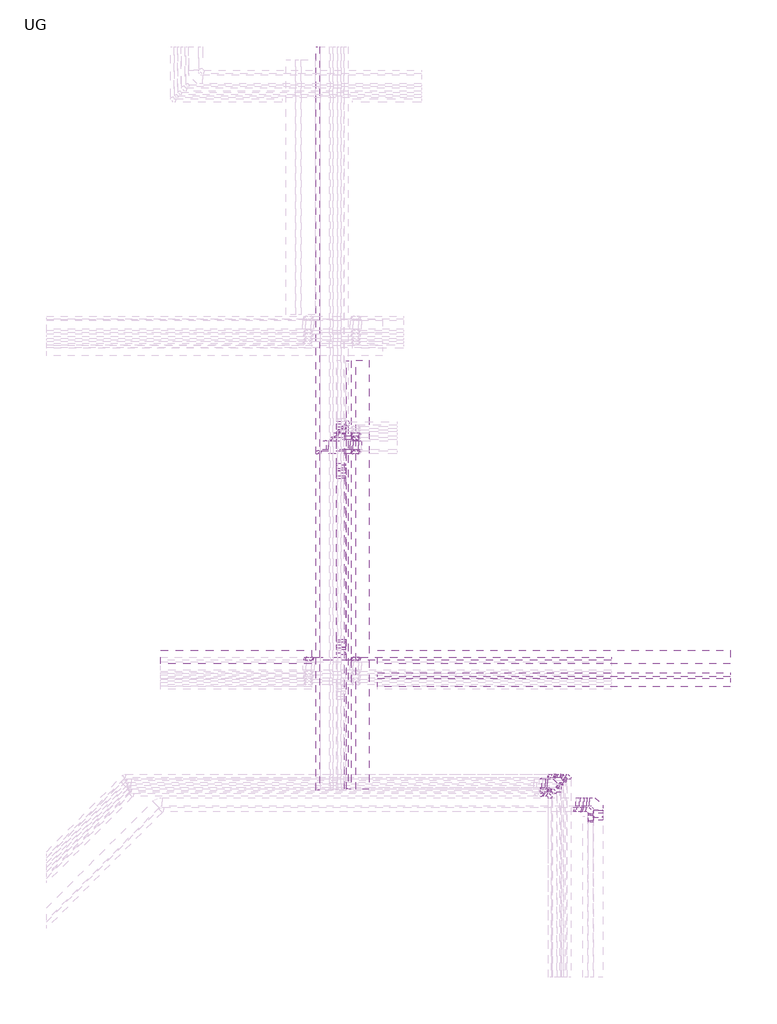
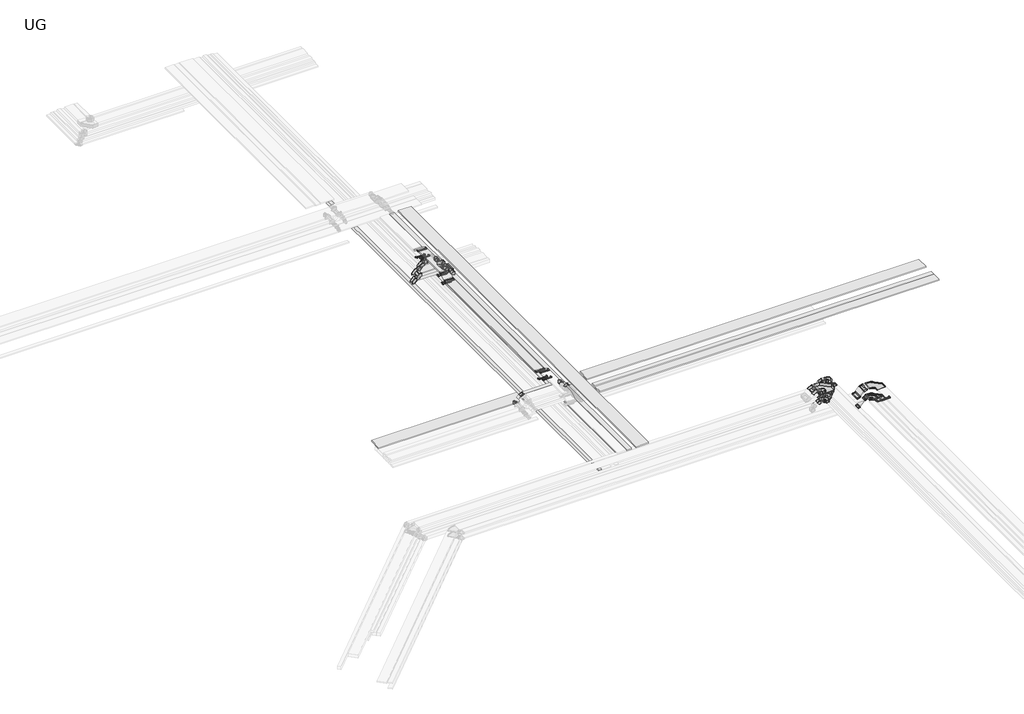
# One storey, part 5 of 14: 62 cable carrier fittings, 47 cable carrier segments.
"""IFC4 building model written with IfcOpenShell, lengths in millimetres."""

from ifc_helpers import new_model, si_unit, frame, origin, place, context, project, spatial, polyline, outline, extrude, transform, mapped, element, save
from components import cable_tray_horizontal_bend_6035e229, cable_tray_horizontal_bend_3927de18, cable_tray_horizontal_bend_f58777bf, cable_tray_horizontal_bend_c1d5b7c4, cable_tray_horizontal_bend_082565e2, cable_tray_horizontal_tee_4e20ecb0, cable_tray_vertical_inside_bend_327bc21f, cable_tray_vertical_inside_bend_f6baaffd, cable_tray_vertical_inside_bend_2483429f, cable_tray_vertical_inside_bend_8fcda462, cable_tray_vertical_inside_bend_649f0518, cable_tray_vertical_inside_bend_7e2063ad, cable_tray_vertical_outside_bend_b526f006, cable_tray_vertical_outside_bend_0dbe7b70, cable_tray_vertical_outside_bend_a3d3d836, cable_tray_vertical_outside_bend_43f46f6e, cable_tray_vertical_outside_bend_dc64f624, cable_tray_vertical_outside_bend_fceaed45, cable_tray_vertical_outside_bend_b6a104fe, cable_tray_vertical_outside_bend_59e16c32, cable_tray_vertical_outside_bend_fb3c5a79, cable_tray_vertical_outside_bend_ce2e8d87

model = new_model("IFC4")

# Units and contexts
model_context = context("Model", 3, world=origin())
ifc_project = project(units=[si_unit("LENGTHUNIT", "METRE", prefix="MILLI")], contexts=[model_context])

# Site, building, storey
site = spatial("IfcSite", under=ifc_project)
building = spatial("IfcBuilding", under=site)
storey = spatial("IfcBuildingStorey", under=building, Name="UG", Elevation=7925.0)

# Cable carrier fittings
placement = place(None, origin())
cable_tray_horizontal_bend_shape = cable_tray_horizontal_bend_6035e229(model_context)
element("IfcCableCarrierFitting", 1, ObjectType="Cable Tray Horizontal Bend : ELEC_ELV_TKG_N2402", at=placement, inside=storey, context=model_context, shape_type="MappedRepresentation", body=[
    mapped(cable_tray_horizontal_bend_shape, transform((112947.3232791, 66965.1193598, 13050.0), x_axis=(0.0, 1.0, 0.0), y_axis=(-1.0, 0.0, 0.0), z_axis=(0.0, 0.0, 1.0))),
])
element("IfcCableCarrierFitting", 2, ObjectType="Cable Tray Horizontal Bend : ELEC_ELV_TKG_N2402", at=placement, inside=storey, context=model_context, shape_type="MappedRepresentation", body=[
    mapped(cable_tray_horizontal_bend_shape, transform((112547.323276, 66315.1193598, 12775.0), x_axis=(0.0, 1.0, 0.0), y_axis=(-1.0, 0.0, 0.0), z_axis=(0.0, 0.0, 1.0))),
])
element("IfcCableCarrierFitting", 3, ObjectType="Cable Tray Horizontal Bend : ELEC_ELV_TKG_N2402", at=placement, inside=storey, context=model_context, shape_type="MappedRepresentation", body=[
    mapped(cable_tray_horizontal_bend_shape, transform((112347.323276, 66115.1193598, 12775.0), x_axis=(0.0, 1.0, 0.0), y_axis=(-1.0, 0.0, 0.0), z_axis=(0.0, 0.0, 1.0))),
])
cable_tray_horizontal_bend_2_shape = cable_tray_horizontal_bend_3927de18(model_context)
element("IfcCableCarrierFitting", 4, ObjectType="Cable Tray Horizontal Bend : ELEC_ELV_CT_N2402", at=placement, inside=storey, context=model_context, shape_type="MappedRepresentation", body=[
    mapped(cable_tray_horizontal_bend_2_shape, transform((113197.323276, 66965.1193598, 12724.9999999), x_axis=(0.0, 1.0, 0.0), y_axis=(-1.0, 0.0, 0.0), z_axis=(0.0, 0.0, 1.0))),
])
cable_tray_horizontal_bend_3_shape = cable_tray_horizontal_bend_f58777bf(model_context)
element("IfcCableCarrierFitting", 5, ObjectType="Cable Tray Horizontal Bend : ELEC_ELV_TKG_N2402", at=placement, inside=storey, context=model_context, shape_type="MappedRepresentation", body=[
    mapped(cable_tray_horizontal_bend_3_shape, transform((112622.3232791, 66640.1193644, 13050.0), x_axis=(0.0, 1.0, 0.0), y_axis=(-1.0, 0.0, 0.0), z_axis=(0.0, 0.0, 1.0))),
])
cable_tray_horizontal_bend_4_shape = cable_tray_horizontal_bend_c1d5b7c4(model_context)
element("IfcCableCarrierFitting", 6, ObjectType="Cable Tray Horizontal Bend : ELEC_SUB_CT_N2402", at=placement, inside=storey, context=model_context, shape_type="MappedRepresentation", body=[
    mapped(cable_tray_horizontal_bend_4_shape, transform((114522.323279, 65790.1193568, 12999.9999998), x_axis=(0.0, 1.0, 0.0), y_axis=(-1.0, 0.0, 0.0), z_axis=(0.0, 0.0, 1.0))),
])
element("IfcCableCarrierFitting", 7, ObjectType="Cable Tray Horizontal Bend : ELEC_SUB_CT_N2402", at=placement, inside=storey, context=model_context, shape_type="MappedRepresentation", body=[
    mapped(cable_tray_horizontal_bend_4_shape, transform((114522.323279, 65790.1193568, 12425.0), x_axis=(0.0, 1.0, 0.0), y_axis=(-1.0, 0.0, 0.0), z_axis=(0.0, 0.0, 1.0))),
])
cable_tray_horizontal_bend_5_shape = cable_tray_horizontal_bend_082565e2(model_context)
element("IfcCableCarrierFitting", 8, ObjectType="Cable Tray Horizontal Bend : ELEC_SUB_CT_N2402", at=placement, inside=storey, context=model_context, shape_type="MappedRepresentation", body=[
    mapped(cable_tray_horizontal_bend_5_shape, transform((114172.323279, 65440.1193568, 12725.0000001), x_axis=(0.0, 1.0, 0.0), y_axis=(-1.0, 0.0, 0.0), z_axis=(0.0, 0.0, 1.0))),
])
element("IfcCableCarrierFitting", 9, ObjectType="Cable Tray Horizontal Bend : ELEC_SUB_CT_N2402", at=placement, inside=storey, context=model_context, shape_type="MappedRepresentation", body=[
    mapped(cable_tray_horizontal_bend_5_shape, transform((114172.323279, 65440.1193568, 12700.0000003), x_axis=(0.0, 1.0, 0.0), y_axis=(-1.0, 0.0, 0.0), z_axis=(0.0, 0.0, 1.0))),
])
cable_tray_horizontal_tee_shape = cable_tray_horizontal_tee_4e20ecb0(model_context)
element("IfcCableCarrierFitting", 10, ObjectType="Cable Tray Horizontal Tee : ELEC_ELV_CT_N2402", at=placement, inside=storey, context=model_context, shape_type="MappedRepresentation", body=[
    mapped(cable_tray_horizontal_tee_shape, transform((103109.3144981, 82925.0, 12675.0), x_axis=(0.0, 1.0, 0.0), y_axis=(-1.0, 0.0, 0.0), z_axis=(0.0, 0.0, 1.0))),
])
cable_tray_vertical_inside_bend_shape = cable_tray_vertical_inside_bend_327bc21f(model_context)
element("IfcCableCarrierFitting", 11, ObjectType="Cable Tray Vertical Inside Bend : ELEC_SUB_CT_N2402", at=placement, inside=storey, context=model_context, shape_type="MappedRepresentation", body=[
    mapped(cable_tray_vertical_inside_bend_shape, transform((102874.6931236, 82852.565503, 13075.0000003), x_axis=(0.0, -1.0, 0.0), y_axis=(0.0, 0.0, 1.0), z_axis=(-1.0, 0.0, 0.0))),
])
element("IfcCableCarrierFitting", 12, ObjectType="Cable Tray Vertical Inside Bend : ELEC_SUB_CT_N2402", at=placement, inside=storey, context=model_context, shape_type="MappedRepresentation", body=[
    mapped(cable_tray_vertical_inside_bend_shape, transform((102874.6931236, 72854.7434943, 13075.0000003), x_axis=(0.0, 0.8660254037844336, -0.5000000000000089), y_axis=(0.0, 0.5000000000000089, 0.8660254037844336), z_axis=(1.0, 0.0, 0.0))),
])
element("IfcCableCarrierFitting", 13, ObjectType="Cable Tray Vertical Inside Bend : ELEC_SUB_CT_N2402", at=placement, inside=storey, context=model_context, shape_type="MappedRepresentation", body=[
    mapped(cable_tray_vertical_inside_bend_shape, transform((102874.6931236, 80728.5898391, 13075.0000003), x_axis=(0.0, -0.8660254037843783, -0.5000000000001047), y_axis=(0.0, -0.5000000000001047, 0.8660254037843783), z_axis=(-1.0, 0.0, 0.0))),
])
element("IfcCableCarrierFitting", 14, ObjectType="Cable Tray Vertical Inside Bend : ELEC_SUB_CT_N2402", at=placement, inside=storey, context=model_context, shape_type="MappedRepresentation", body=[
    mapped(cable_tray_vertical_inside_bend_shape, transform((102874.6931236, 73079.7434943, 13300.0000003), x_axis=(0.0, 0.8660254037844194, -0.5000000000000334), y_axis=(0.0, 0.5000000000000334, 0.8660254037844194), z_axis=(1.0, 0.0, 0.0))),
])
element("IfcCableCarrierFitting", 15, ObjectType="Cable Tray Vertical Inside Bend : ELEC_SUB_CT_N2402", at=placement, inside=storey, context=model_context, shape_type="MappedRepresentation", body=[
    mapped(cable_tray_vertical_inside_bend_shape, transform((102874.6931236, 80503.589839, 13300.0000003), x_axis=(0.0, -0.8660254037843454, -0.5000000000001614), y_axis=(0.0, -0.5000000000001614, 0.8660254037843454), z_axis=(-1.0, 0.0, 0.0))),
])
cable_tray_vertical_inside_bend_2_shape = cable_tray_vertical_inside_bend_f6baaffd(model_context)
element("IfcCableCarrierFitting", 16, ObjectType="Cable Tray Vertical Inside Bend : ELEC_SUB_CT_N2402", at=placement, inside=storey, context=model_context, shape_type="MappedRepresentation", body=[
    mapped(cable_tray_vertical_inside_bend_2_shape, transform((114522.323279, 65354.0921288, 12424.9999997), x_axis=(0.0, -1.0, 0.0), y_axis=(0.0, 0.0, 1.0), z_axis=(-1.0, 0.0, 0.0))),
])
element("IfcCableCarrierFitting", 17, ObjectType="Cable Tray Vertical Inside Bend : ELEC_SUB_CT_N2402", at=placement, inside=storey, context=model_context, shape_type="MappedRepresentation", body=[
    mapped(cable_tray_vertical_inside_bend_2_shape, transform((113610.9178416, 65790.1193568, 12700.0000003), x_axis=(-0.707106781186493, 0.0, -0.7071067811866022), y_axis=(-0.7071067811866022, 0.0, 0.707106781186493), z_axis=(0.0, 1.0, 0.0))),
])
cable_tray_vertical_inside_bend_3_shape = cable_tray_vertical_inside_bend_2483429f(model_context)
element("IfcCableCarrierFitting", 18, ObjectType="Cable Tray Vertical Inside Bend : ELEC_SUB_CT_N2402", at=placement, inside=storey, context=model_context, shape_type="MappedRepresentation", body=[
    mapped(cable_tray_vertical_inside_bend_3_shape, transform((114172.323279, 65219.7775603, 12700.0), x_axis=(0.0, -1.0, 0.0), y_axis=(0.0, 0.0, 1.0), z_axis=(-1.0, 0.0, 0.0))),
])
element("IfcCableCarrierFitting", 19, ObjectType="Cable Tray Vertical Inside Bend : ELEC_SUB_CT_N2402", at=placement, inside=storey, context=model_context, shape_type="MappedRepresentation", body=[
    mapped(cable_tray_vertical_inside_bend_3_shape, transform((113476.6032721, 65440.1193568, 12425.0), x_axis=(-0.707106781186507, 0.0, -0.7071067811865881), y_axis=(-0.7071067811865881, 0.0, 0.707106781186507), z_axis=(0.0, 1.0, 0.0))),
])
cable_tray_vertical_inside_bend_4_shape = cable_tray_vertical_inside_bend_8fcda462(model_context)
element("IfcCableCarrierFitting", 20, ObjectType="Cable Tray Vertical Inside Bend : ELEC_ELV_CT_N2402", at=placement, inside=storey, context=model_context, shape_type="MappedRepresentation", body=[
    mapped(cable_tray_vertical_inside_bend_4_shape, transform((112551.6032706, 66965.1193598, 12424.9999995), x_axis=(-0.7071067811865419, 0.0, -0.7071067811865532), y_axis=(-0.7071067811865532, 0.0, 0.7071067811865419), z_axis=(0.0, 1.0, 0.0))),
])
cable_tray_vertical_inside_bend_5_shape = cable_tray_vertical_inside_bend_649f0518(model_context)
element("IfcCableCarrierFitting", 21, ObjectType="Cable Tray Vertical Inside Bend : ELEC_ELV_TKG_N2402", at=placement, inside=storey, context=model_context, shape_type="MappedRepresentation", body=[
    mapped(cable_tray_vertical_inside_bend_5_shape, transform((112322.3232791, 66340.1193644, 12725.0), x_axis=(1.0, 0.0, 0.0), y_axis=(0.0, 0.0, 1.0), z_axis=(0.0, -1.0, 0.0))),
])
element("IfcCableCarrierFitting", 22, ObjectType="Cable Tray Vertical Inside Bend : ELEC_ELV_TKG_N2402", at=placement, inside=storey, context=model_context, shape_type="MappedRepresentation", body=[
    mapped(cable_tray_vertical_inside_bend_5_shape, transform((113022.323276, 66790.1193598, 12449.9999995), x_axis=(0.0, 0.0, -1.0), y_axis=(-1.0, 0.0, 0.0), z_axis=(0.0, 1.0, 0.0))),
])
element("IfcCableCarrierFitting", 23, ObjectType="Cable Tray Vertical Inside Bend : ELEC_ELV_TKG_N2402", at=placement, inside=storey, context=model_context, shape_type="MappedRepresentation", body=[
    mapped(cable_tray_vertical_inside_bend_5_shape, transform((112872.323276, 66640.1193598, 12449.9999995), x_axis=(0.0, 0.0, -1.0), y_axis=(-1.0, 0.0, 0.0), z_axis=(0.0, 1.0, 0.0))),
])
element("IfcCableCarrierFitting", 24, ObjectType="Cable Tray Vertical Inside Bend : ELEC_ELV_TKG_N2402", at=placement, inside=storey, context=model_context, shape_type="MappedRepresentation", body=[
    mapped(cable_tray_vertical_inside_bend_5_shape, transform((112722.323276, 66490.1193598, 12449.9999995), x_axis=(1.0, 0.0, 0.0), y_axis=(0.0, 0.0, 1.0), z_axis=(0.0, -1.0, 0.0))),
])
cable_tray_vertical_inside_bend_6_shape = cable_tray_vertical_inside_bend_7e2063ad(model_context)
element("IfcCableCarrierFitting", 25, ObjectType="Cable Tray Vertical Inside Bend : ELEC_ELV_TKG_N2402", at=placement, inside=storey, context=model_context, shape_type="MappedRepresentation", body=[
    mapped(cable_tray_vertical_inside_bend_6_shape, transform((112301.6032743, 66965.1193598, 12750.0), x_axis=(-0.7071067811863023, 0.0, -0.7071067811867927), y_axis=(-0.7071067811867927, 0.0, 0.7071067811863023), z_axis=(0.0, 1.0, 0.0))),
])
cable_tray_vertical_outside_bend_shape = cable_tray_vertical_outside_bend_b526f006(model_context)
element("IfcCableCarrierFitting", 26, ObjectType="Cable Tray Vertical Outside Bend : ELEC_ELV_TKG_N2402", at=placement, inside=storey, context=model_context, shape_type="MappedRepresentation", body=[
    mapped(cable_tray_vertical_outside_bend_shape, transform((101809.3144981, 81625.0, 13025.0), x_axis=(-1.0, 0.0, 0.0), y_axis=(0.0, 0.0, -1.0), z_axis=(0.0, -1.0, 0.0))),
])
element("IfcCableCarrierFitting", 27, ObjectType="Cable Tray Vertical Outside Bend : ELEC_ELV_TKG_N2402", at=placement, inside=storey, context=model_context, shape_type="MappedRepresentation", body=[
    mapped(cable_tray_vertical_outside_bend_shape, transform((102609.3144981, 82425.0, 13025.0), x_axis=(-1.0, 0.0, 0.0), y_axis=(0.0, 0.0, -1.0), z_axis=(0.0, -1.0, 0.0))),
])
cable_tray_vertical_outside_bend_2_shape = cable_tray_vertical_outside_bend_0dbe7b70(model_context)
element("IfcCableCarrierFitting", 28, ObjectType="Cable Tray Vertical Outside Bend : ELEC_ELV_TKG_N2402", at=placement, inside=storey, context=model_context, shape_type="MappedRepresentation", body=[
    mapped(cable_tray_vertical_outside_bend_2_shape, transform((102434.3144981, 82250.0, 13000.0), x_axis=(-1.0, 0.0, 0.0), y_axis=(0.0, 0.0, -1.0), z_axis=(0.0, -1.0, 0.0))),
])
element("IfcCableCarrierFitting", 29, ObjectType="Cable Tray Vertical Outside Bend : ELEC_ELV_TKG_N2402", at=placement, inside=storey, context=model_context, shape_type="MappedRepresentation", body=[
    mapped(cable_tray_vertical_outside_bend_2_shape, transform((102784.3144981, 82600.0, 13000.0), x_axis=(-1.0, 0.0, 0.0), y_axis=(0.0, 0.0, -1.0), z_axis=(0.0, -1.0, 0.0))),
])
element("IfcCableCarrierFitting", 30, ObjectType="Cable Tray Vertical Outside Bend : ELEC_ELV_TKG_N2402", at=placement, inside=storey, context=model_context, shape_type="MappedRepresentation", body=[
    mapped(cable_tray_vertical_outside_bend_2_shape, transform((102934.3144981, 82750.0, 13000.0), x_axis=(-1.0, 0.0, 0.0), y_axis=(0.0, 0.0, -1.0), z_axis=(0.0, -1.0, 0.0))),
])
element("IfcCableCarrierFitting", 31, ObjectType="Cable Tray Vertical Outside Bend : ELEC_ELV_TKG_N2402", at=placement, inside=storey, context=model_context, shape_type="MappedRepresentation", body=[
    mapped(cable_tray_vertical_outside_bend_2_shape, transform((112322.3232791, 66340.1193644, 13025.0), x_axis=(0.0, 1.0, 0.0), y_axis=(0.0, 0.0, -1.0), z_axis=(-1.0, 0.0, 0.0))),
])
element("IfcCableCarrierFitting", 32, ObjectType="Cable Tray Vertical Outside Bend : ELEC_ELV_TKG_N2402", at=placement, inside=storey, context=model_context, shape_type="MappedRepresentation", body=[
    mapped(cable_tray_vertical_outside_bend_2_shape, transform((113022.323276, 66790.1193598, 12750.0), x_axis=(0.0, 1.0, 0.0), y_axis=(0.0, 0.0, -1.0), z_axis=(-1.0, 0.0, 0.0))),
])
element("IfcCableCarrierFitting", 33, ObjectType="Cable Tray Vertical Outside Bend : ELEC_ELV_TKG_N2402", at=placement, inside=storey, context=model_context, shape_type="MappedRepresentation", body=[
    mapped(cable_tray_vertical_outside_bend_2_shape, transform((112872.323276, 66640.1193598, 12750.0), x_axis=(0.0, 1.0, 0.0), y_axis=(0.0, 0.0, -1.0), z_axis=(-1.0, 0.0, 0.0))),
])
element("IfcCableCarrierFitting", 34, ObjectType="Cable Tray Vertical Outside Bend : ELEC_ELV_TKG_N2402", at=placement, inside=storey, context=model_context, shape_type="MappedRepresentation", body=[
    mapped(cable_tray_vertical_outside_bend_2_shape, transform((112722.323276, 66490.1193598, 12750.0), x_axis=(0.0, 0.0, 1.0), y_axis=(0.0, -1.0, 0.0), z_axis=(1.0, 0.0, 0.0))),
])
cable_tray_vertical_outside_bend_3_shape = cable_tray_vertical_outside_bend_a3d3d836(model_context)
element("IfcCableCarrierFitting", 35, ObjectType="Cable Tray Vertical Outside Bend : ELEC_ELV_TKG_N2402", at=placement, inside=storey, context=model_context, shape_type="MappedRepresentation", body=[
    mapped(cable_tray_vertical_outside_bend_3_shape, transform((103684.3144981, 81950.0, 12725.0), x_axis=(-1.0, 0.0, 0.0), y_axis=(0.0, 0.0, 1.0), z_axis=(0.0, 1.0, 0.0))),
])
element("IfcCableCarrierFitting", 36, ObjectType="Cable Tray Vertical Outside Bend : ELEC_ELV_TKG_N2402", at=placement, inside=storey, context=model_context, shape_type="MappedRepresentation", body=[
    mapped(cable_tray_vertical_outside_bend_3_shape, transform((103384.3144981, 81950.0, 13025.0), x_axis=(-0.7071067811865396, 0.0, 0.7071067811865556), y_axis=(-0.7071067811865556, 0.0, -0.7071067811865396), z_axis=(0.0, -1.0, 0.0))),
])
element("IfcCableCarrierFitting", 37, ObjectType="Cable Tray Vertical Outside Bend : ELEC_ELV_TKG_N2402", at=placement, inside=storey, context=model_context, shape_type="MappedRepresentation", body=[
    mapped(cable_tray_vertical_outside_bend_3_shape, transform((112010.9178414, 66640.1193644, 13050.0), x_axis=(-1.0, 0.0, 0.0), y_axis=(0.0, 0.0, -1.0), z_axis=(0.0, -1.0, 0.0))),
])
cable_tray_vertical_outside_bend_4_shape = cable_tray_vertical_outside_bend_43f46f6e(model_context)
element("IfcCableCarrierFitting", 38, ObjectType="Cable Tray Vertical Outside Bend : ELEC_ELV_TKG_N2402", at=placement, inside=storey, context=model_context, shape_type="MappedRepresentation", body=[
    mapped(cable_tray_vertical_outside_bend_4_shape, transform((102134.3144981, 81950.0, 13025.0), x_axis=(-1.0, 0.0, 0.0), y_axis=(0.0, 0.0, -1.0), z_axis=(0.0, -1.0, 0.0))),
])
cable_tray_vertical_outside_bend_5_shape = cable_tray_vertical_outside_bend_dc64f624(model_context)
element("IfcCableCarrierFitting", 39, ObjectType="Cable Tray Vertical Outside Bend : ELEC_SUB_CT_N2402", at=placement, inside=storey, context=model_context, shape_type="MappedRepresentation", body=[
    mapped(cable_tray_vertical_outside_bend_5_shape, transform((102874.6931236, 82506.155342, 13275.0), x_axis=(0.0, 1.0, 0.0), y_axis=(0.0, 0.0, -1.0), z_axis=(-1.0, 0.0, 0.0))),
])
element("IfcCableCarrierFitting", 40, ObjectType="Cable Tray Vertical Outside Bend : ELEC_SUB_CT_N2402", at=placement, inside=storey, context=model_context, shape_type="MappedRepresentation", body=[
    mapped(cable_tray_vertical_outside_bend_5_shape, transform((102874.6931236, 81075.0, 13275.0), x_axis=(0.0, -1.0, 0.0), y_axis=(0.0, 0.0, -1.0), z_axis=(1.0, 0.0, 0.0))),
])
element("IfcCableCarrierFitting", 41, ObjectType="Cable Tray Vertical Outside Bend : ELEC_SUB_CT_N2402", at=placement, inside=storey, context=model_context, shape_type="MappedRepresentation", body=[
    mapped(cable_tray_vertical_outside_bend_5_shape, transform((102874.6931236, 82733.3333333, 13500.0), x_axis=(0.0, 1.0, 0.0), y_axis=(0.0, 0.0, -1.0), z_axis=(-1.0, 0.0, 0.0))),
])
element("IfcCableCarrierFitting", 42, ObjectType="Cable Tray Vertical Outside Bend : ELEC_SUB_CT_N2402", at=placement, inside=storey, context=model_context, shape_type="MappedRepresentation", body=[
    mapped(cable_tray_vertical_outside_bend_5_shape, transform((102874.6931236, 80850.0, 13500.0), x_axis=(0.0, -1.0, 0.0), y_axis=(0.0, 0.0, -1.0), z_axis=(1.0, 0.0, 0.0))),
])
element("IfcCableCarrierFitting", 43, ObjectType="Cable Tray Vertical Outside Bend : ELEC_SUB_CT_N2402", at=placement, inside=storey, context=model_context, shape_type="MappedRepresentation", body=[
    mapped(cable_tray_vertical_outside_bend_5_shape, transform((102874.6931236, 72508.3333333, 13275.0), x_axis=(0.0, 1.0, 0.0), y_axis=(0.0, 0.0, -1.0), z_axis=(-1.0, 0.0, 0.0))),
])
element("IfcCableCarrierFitting", 44, ObjectType="Cable Tray Vertical Outside Bend : ELEC_SUB_CT_N2402", at=placement, inside=storey, context=model_context, shape_type="MappedRepresentation", body=[
    mapped(cable_tray_vertical_outside_bend_5_shape, transform((102874.6931236, 72733.3333333, 13500.0), x_axis=(0.0, 1.0, 0.0), y_axis=(0.0, 0.0, -1.0), z_axis=(-1.0, 0.0, 0.0))),
])
cable_tray_vertical_outside_bend_6_shape = cable_tray_vertical_outside_bend_fceaed45(model_context)
element("IfcCableCarrierFitting", 45, ObjectType="Cable Tray Vertical Outside Bend : ELEC_ELV_TKG_N2402", at=placement, inside=storey, context=model_context, shape_type="MappedRepresentation", body=[
    mapped(cable_tray_vertical_outside_bend_6_shape, transform((103684.3144981, 82250.0, 12700.0), x_axis=(-1.0, 0.0, 0.0), y_axis=(0.0, 0.0, 1.0), z_axis=(0.0, 1.0, 0.0))),
])
element("IfcCableCarrierFitting", 46, ObjectType="Cable Tray Vertical Outside Bend : ELEC_ELV_TKG_N2402", at=placement, inside=storey, context=model_context, shape_type="MappedRepresentation", body=[
    mapped(cable_tray_vertical_outside_bend_6_shape, transform((103384.3144981, 82250.0, 13000.0), x_axis=(-0.7071067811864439, 0.0, 0.7071067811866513), y_axis=(-0.7071067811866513, 0.0, -0.7071067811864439), z_axis=(0.0, -1.0, 0.0))),
])
cable_tray_vertical_outside_bend_7_shape = cable_tray_vertical_outside_bend_b6a104fe(model_context)
element("IfcCableCarrierFitting", 47, ObjectType="Cable Tray Vertical Outside Bend : ELEC_ELV_TKG_N2402", at=placement, inside=storey, context=model_context, shape_type="MappedRepresentation", body=[
    mapped(cable_tray_vertical_outside_bend_7_shape, transform((101259.3144981, 72275.0, 12725.0), x_axis=(1.0, 0.0, 0.0), y_axis=(0.0, 0.0, 1.0), z_axis=(0.0, -1.0, 0.0))),
])
element("IfcCableCarrierFitting", 48, ObjectType="Cable Tray Vertical Outside Bend : ELEC_ELV_TKG_N2402", at=placement, inside=storey, context=model_context, shape_type="MappedRepresentation", body=[
    mapped(cable_tray_vertical_outside_bend_7_shape, transform((103684.3144981, 72275.0, 12725.0), x_axis=(-1.0, 0.0, 0.0), y_axis=(0.0, 0.0, 1.0), z_axis=(0.0, 1.0, 0.0))),
])
element("IfcCableCarrierFitting", 49, ObjectType="Cable Tray Vertical Outside Bend : ELEC_ELV_TKG_N2402", at=placement, inside=storey, context=model_context, shape_type="MappedRepresentation", body=[
    mapped(cable_tray_vertical_outside_bend_7_shape, transform((101559.3144981, 72275.0, 13025.0), x_axis=(0.7071067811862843, 0.0, 0.7071067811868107), y_axis=(0.7071067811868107, 0.0, -0.7071067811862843), z_axis=(0.0, 1.0, 0.0))),
])
element("IfcCableCarrierFitting", 50, ObjectType="Cable Tray Vertical Outside Bend : ELEC_ELV_TKG_N2402", at=placement, inside=storey, context=model_context, shape_type="MappedRepresentation", body=[
    mapped(cable_tray_vertical_outside_bend_7_shape, transform((103384.3144981, 72275.0, 13025.0), x_axis=(-0.7071067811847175, 0.0, 0.7071067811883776), y_axis=(-0.7071067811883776, 0.0, -0.7071067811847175), z_axis=(0.0, -1.0, 0.0))),
])
element("IfcCableCarrierFitting", 51, ObjectType="Cable Tray Vertical Outside Bend : ELEC_ELV_TKG_N2402", at=placement, inside=storey, context=model_context, shape_type="MappedRepresentation", body=[
    mapped(cable_tray_vertical_outside_bend_7_shape, transform((103684.3144981, 81625.0, 12725.0), x_axis=(-1.0, 0.0, 0.0), y_axis=(0.0, 0.0, 1.0), z_axis=(0.0, 1.0, 0.0))),
])
element("IfcCableCarrierFitting", 52, ObjectType="Cable Tray Vertical Outside Bend : ELEC_ELV_TKG_N2402", at=placement, inside=storey, context=model_context, shape_type="MappedRepresentation", body=[
    mapped(cable_tray_vertical_outside_bend_7_shape, transform((103384.3144981, 81625.0, 13025.0), x_axis=(-0.7071067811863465, 0.0, 0.7071067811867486), y_axis=(-0.7071067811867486, 0.0, -0.7071067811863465), z_axis=(0.0, -1.0, 0.0))),
])
element("IfcCableCarrierFitting", 53, ObjectType="Cable Tray Vertical Outside Bend : ELEC_ELV_TKG_N2402", at=placement, inside=storey, context=model_context, shape_type="MappedRepresentation", body=[
    mapped(cable_tray_vertical_outside_bend_7_shape, transform((103684.3144981, 82425.0, 12725.0), x_axis=(-1.0, 0.0, 0.0), y_axis=(0.0, 0.0, 1.0), z_axis=(0.0, 1.0, 0.0))),
])
element("IfcCableCarrierFitting", 54, ObjectType="Cable Tray Vertical Outside Bend : ELEC_ELV_TKG_N2402", at=placement, inside=storey, context=model_context, shape_type="MappedRepresentation", body=[
    mapped(cable_tray_vertical_outside_bend_7_shape, transform((103384.3144981, 82425.0, 13025.0), x_axis=(-0.7071067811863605, 0.0, 0.7071067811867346), y_axis=(-0.7071067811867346, 0.0, -0.7071067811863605), z_axis=(0.0, -1.0, 0.0))),
])
element("IfcCableCarrierFitting", 55, ObjectType="Cable Tray Vertical Outside Bend : ELEC_ELV_TKG_N2402", at=placement, inside=storey, context=model_context, shape_type="MappedRepresentation", body=[
    mapped(cable_tray_vertical_outside_bend_7_shape, transform((112601.6032743, 66965.1193598, 13050.0), x_axis=(-1.0, 0.0, 0.0), y_axis=(0.0, 0.0, -1.0), z_axis=(0.0, -1.0, 0.0))),
])
element("IfcCableCarrierFitting", 56, ObjectType="Cable Tray Vertical Outside Bend : ELEC_ELV_TKG_N2402", at=placement, inside=storey, context=model_context, shape_type="MappedRepresentation", body=[
    mapped(cable_tray_vertical_outside_bend_7_shape, transform((112201.603271, 66315.1193598, 12775.0), x_axis=(-1.0, 0.0, 0.0), y_axis=(0.0, 0.0, -1.0), z_axis=(0.0, -1.0, 0.0))),
])
element("IfcCableCarrierFitting", 57, ObjectType="Cable Tray Vertical Outside Bend : ELEC_ELV_TKG_N2402", at=placement, inside=storey, context=model_context, shape_type="MappedRepresentation", body=[
    mapped(cable_tray_vertical_outside_bend_7_shape, transform((112001.603271, 66115.1193598, 12775.0), x_axis=(-1.0, 0.0, 0.0), y_axis=(0.0, 0.0, -1.0), z_axis=(0.0, -1.0, 0.0))),
])
cable_tray_vertical_outside_bend_8_shape = cable_tray_vertical_outside_bend_59e16c32(model_context)
element("IfcCableCarrierFitting", 58, ObjectType="Cable Tray Vertical Outside Bend : ELEC_SUB_CT_N2402", at=placement, inside=storey, context=model_context, shape_type="MappedRepresentation", body=[
    mapped(cable_tray_vertical_outside_bend_8_shape, transform((113910.9178411, 65790.1193568, 12999.9999998), x_axis=(-1.0, 0.0, 0.0), y_axis=(0.0, 0.0, -1.0), z_axis=(0.0, -1.0, 0.0))),
])
element("IfcCableCarrierFitting", 59, ObjectType="Cable Tray Vertical Outside Bend : ELEC_SUB_CT_N2402", at=placement, inside=storey, context=model_context, shape_type="MappedRepresentation", body=[
    mapped(cable_tray_vertical_outside_bend_8_shape, transform((114522.323279, 65054.0921285, 12725.0), x_axis=(0.0, -0.707106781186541, 0.7071067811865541), y_axis=(0.0, -0.7071067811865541, -0.707106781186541), z_axis=(1.0, 0.0, 0.0))),
])
cable_tray_vertical_outside_bend_9_shape = cable_tray_vertical_outside_bend_fb3c5a79(model_context)
element("IfcCableCarrierFitting", 60, ObjectType="Cable Tray Vertical Outside Bend : ELEC_SUB_CT_N2402", at=placement, inside=storey, context=model_context, shape_type="MappedRepresentation", body=[
    mapped(cable_tray_vertical_outside_bend_9_shape, transform((114172.323279, 64919.7775607, 12999.9999997), x_axis=(0.0, -0.7071067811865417, 0.7071067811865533), y_axis=(0.0, -0.7071067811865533, -0.7071067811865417), z_axis=(1.0, 0.0, 0.0))),
])
element("IfcCableCarrierFitting", 61, ObjectType="Cable Tray Vertical Outside Bend : ELEC_SUB_CT_N2402", at=placement, inside=storey, context=model_context, shape_type="MappedRepresentation", body=[
    mapped(cable_tray_vertical_outside_bend_9_shape, transform((113776.6032723, 65440.1193568, 12725.0000001), x_axis=(-1.0, 0.0, 0.0), y_axis=(0.0, 0.0, -1.0), z_axis=(0.0, -1.0, 0.0))),
])
cable_tray_vertical_outside_bend_10_shape = cable_tray_vertical_outside_bend_ce2e8d87(model_context)
element("IfcCableCarrierFitting", 62, ObjectType="Cable Tray Vertical Outside Bend : ELEC_ELV_CT_N2402", at=placement, inside=storey, context=model_context, shape_type="MappedRepresentation", body=[
    mapped(cable_tray_vertical_outside_bend_10_shape, transform((112851.603271, 66965.1193598, 12724.9999999), x_axis=(-1.0, 0.0, 0.0), y_axis=(0.0, 0.0, -1.0), z_axis=(0.0, -1.0, 0.0))),
])

# Cable carrier segments
element("IfcCableCarrierSegment", 63, ObjectType="ELEC_ELV_TKG_N2402", at=placement, inside=storey, context=model_context, shape_type="SweptSolid", body=[
    extrude(outline(polyline([(101734.3144981, 100000.0), (101884.3144981, 100000.0), (101884.3144981, 66315.1193598), (101734.3144981, 66315.1193598), (101734.3144981, 100000.0)])), frame((0.0, 0.0, 12650.0), z_axis=(0.0, 0.0, 1.0), x_axis=(1.0, 0.0, 0.0)), (0.0, 0.0, 1.0), 150.0),
])
element("IfcCableCarrierSegment", 64, ObjectType="ELEC_SUB_CT_N2402", at=placement, inside=storey, context=model_context, shape_type="SweptSolid", body=[
    extrude(outline(polyline([(104525.0713304, 71000.0), (104525.0713304, 71400.0), (120509.0057623, 71400.0), (120509.0057623, 71000.0), (104525.0713304, 71000.0)])), frame((0.0, 0.0, 12875.0000003), z_axis=(0.0, 0.0, 1.0), x_axis=(1.0, 0.0, 0.0)), (0.0, 0.0, 1.0), 50.0),
])
element("IfcCableCarrierSegment", 65, ObjectType="ELEC_SUB_CT_N2402", at=placement, inside=storey, context=model_context, shape_type="SweptSolid", body=[
    extrude(outline(polyline([(104525.0713304, 71450.0), (104525.0713304, 71650.0), (120509.0057623, 71650.0), (120509.0057623, 71450.0), (104525.0713304, 71450.0)])), frame((0.0, 0.0, 12875.0), z_axis=(0.0, 0.0, 1.0), x_axis=(1.0, 0.0, 0.0)), (0.0, 0.0, 1.0), 50.0),
])
element("IfcCableCarrierSegment", 66, ObjectType="ELEC_SUB_CT_N2402", at=placement, inside=storey, context=model_context, shape_type="SweptSolid", body=[
    extrude(outline(polyline([(104525.0713304, 72050.3782068), (104525.0713304, 72650.3782068), (120509.0057623, 72650.3782068), (120509.0057623, 72050.3782068), (104525.0713304, 72050.3782068)])), frame((0.0, 0.0, 12874.9999997), z_axis=(0.0, 0.0, 1.0), x_axis=(1.0, 0.0, 0.0)), (0.0, 0.0, 1.0), 50.0),
])
element("IfcCableCarrierSegment", 67, ObjectType="ELEC_SUB_CT_N2402", at=placement, inside=storey, context=model_context, shape_type="SweptSolid", body=[
    extrude(outline(polyline([(94685.7909828, 72050.3782068), (94685.7909828, 72650.3782068), (101534.3144981, 72650.3782068), (101534.3144981, 72050.3782068), (94685.7909828, 72050.3782068)])), frame((0.0, 0.0, 12874.9999997), z_axis=(0.0, 0.0, 1.0), x_axis=(1.0, 0.0, 0.0)), (0.0, 0.0, 1.0), 50.0),
])
element("IfcCableCarrierSegment", 68, ObjectType="ELEC_ELV_TKG_N2402", at=placement, inside=storey, context=model_context, shape_type="SweptSolid", body=[
    extrude(outline(polyline([(115107.2849174, 72350.0), (115107.2849174, 72200.0), (103746.4465325, 72200.0), (103746.4465325, 72350.0), (115107.2849174, 72350.0)])), frame((0.0, 0.0, 12650.0), z_axis=(0.0, 0.0, 1.0), x_axis=(1.0, 0.0, 0.0)), (0.0, 0.0, 1.0), 150.0),
])
element("IfcCableCarrierSegment", 69, ObjectType="ELEC_SUB_CT_N2402", at=placement, inside=storey, context=model_context, shape_type="SweptSolid", body=[
    extrude(outline(polyline([(103074.6931236, 73140.0320626), (102674.6931236, 73140.0320626), (102674.6931236, 80443.3012707), (103074.6931236, 80443.3012707), (103074.6931236, 73140.0320626)])), frame((0.0, 0.0, 13275.0000003), z_axis=(0.0, 0.0, 1.0), x_axis=(1.0, 0.0, 0.0)), (0.0, 0.0, 1.0), 50.0),
])
element("IfcCableCarrierSegment", 70, ObjectType="ELEC_ELV_TKG_N2402", at=placement, inside=storey, context=model_context, shape_type="SweptSolid", body=[
    extrude(outline(polyline([(75.0, 31.0660172), (-75.0, 31.0660172), (-75.0, 181.0660172), (75.0, 181.0660172), (75.0, 31.0660172)])), frame((101303.248481, 72168.9339828, 12768.9339828), z_axis=(0.7071067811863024, 0.0, 0.7071067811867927), x_axis=(0.7071067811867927, 0.0, -0.7071067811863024)), (0.0, 0.0, 1.0), 300.0),
])
element("IfcCableCarrierSegment", 71, ObjectType="ELEC_ELV_TKG_N2402", at=placement, inside=storey, context=model_context, shape_type="SweptSolid", body=[
    extrude(outline(polyline([(101621.4465325, 72200.0), (101621.4465325, 72350.0), (103322.1824638, 72350.0), (103322.1824638, 72200.0), (101621.4465325, 72200.0)])), frame((0.0, 0.0, 12950.0), z_axis=(0.0, 0.0, 1.0), x_axis=(1.0, 0.0, 0.0)), (0.0, 0.0, 1.0), 150.0),
])
element("IfcCableCarrierSegment", 72, ObjectType="ELEC_ELV_TKG_N2402", at=placement, inside=storey, context=model_context, shape_type="SweptSolid", body=[
    extrude(outline(polyline([(0.0, -150.0), (0.0, 0.0), (300.0, 0.0), (300.0, -150.0), (0.0, -150.0)])), frame((103375.2154724, 72350.0, 12928.0330086), z_axis=(0.707106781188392, 0.0, 0.707106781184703), x_axis=(0.707106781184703, 0.0, -0.707106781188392)), (0.0, 0.0, 1.0), 150.0),
])
element("IfcCableCarrierSegment", 73, ObjectType="ELEC_SUB_CT_N2402", at=placement, inside=storey, context=model_context, shape_type="SweptSolid", body=[
    extrude(outline(polyline([(104138.7672489, 66365.4975666), (103538.7672489, 66365.4975666), (103538.7672489, 85792.7601035), (104138.7672489, 85792.7601035), (104138.7672489, 66365.4975666)])), frame((0.0, 0.0, 13274.9999997), z_axis=(0.0, 0.0, 1.0), x_axis=(1.0, 0.0, 0.0)), (0.0, 0.0, 1.0), 50.0),
])
element("IfcCableCarrierSegment", 74, ObjectType="ELEC_SUB_CT_N2402", at=placement, inside=storey, context=model_context, shape_type="SweptSolid", body=[
    extrude(outline(polyline([(103324.6931236, 66365.4975666), (103124.6931236, 66365.4975666), (103124.6931236, 85773.3333333), (103324.6931236, 85773.3333333), (103324.6931236, 66365.4975666)])), frame((0.0, 0.0, 13275.0), z_axis=(0.0, 0.0, 1.0), x_axis=(1.0, 0.0, 0.0)), (0.0, 0.0, 1.0), 50.0),
])
element("IfcCableCarrierSegment", 75, ObjectType="ELEC_SUB_CT_N2402", at=placement, inside=storey, context=model_context, shape_type="SweptSolid", body=[
    extrude(outline(polyline([(103074.6931236, 80910.2885683), (102674.6931236, 80910.2885683), (102674.6931236, 82673.044765), (103074.6931236, 82673.044765), (103074.6931236, 80910.2885683)])), frame((0.0, 0.0, 13475.0), z_axis=(0.0, 0.0, 1.0), x_axis=(1.0, 0.0, 0.0)), (0.0, 0.0, 1.0), 50.0),
])
element("IfcCableCarrierSegment", 76, ObjectType="ELEC_ELV_TKG_N2402", at=placement, inside=storey, context=model_context, shape_type="SweptSolid", body=[
    extrude(outline(polyline([(0.0, -150.0), (0.0, 0.0), (300.0, 0.0), (300.0, -150.0), (0.0, -150.0)])), frame((103587.3475067, 81550.0, 12715.9009742), z_axis=(0.7071067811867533, 0.0, 0.7071067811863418), x_axis=(-0.7071067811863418, 0.0, 0.7071067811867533)), (0.0, 0.0, 1.0), 150.0),
])
element("IfcCableCarrierSegment", 77, ObjectType="ELEC_ELV_TKG_N2402", at=placement, inside=storey, context=model_context, shape_type="SweptSolid", body=[
    extrude(outline(polyline([(103322.1824638, 81700.0), (103322.1824638, 81550.0), (101959.3144981, 81550.0), (101959.3144981, 81700.0), (103322.1824638, 81700.0)])), frame((0.0, 0.0, 12950.0), z_axis=(0.0, 0.0, 1.0), x_axis=(1.0, 0.0, 0.0)), (0.0, 0.0, 1.0), 150.0),
])
element("IfcCableCarrierSegment", 78, ObjectType="ELEC_ELV_TKG_N2402", at=placement, inside=storey, context=model_context, shape_type="SweptSolid", body=[
    extrude(outline(polyline([(101884.3144981, 81550.0), (101734.3144981, 81550.0), (101734.3144981, 81700.0), (101884.3144981, 81700.0), (101884.3144981, 81550.0)])), frame((0.0, 0.0, 12825.0), z_axis=(0.0, 0.0, 1.0), x_axis=(1.0, 0.0, 0.0)), (0.0, 0.0, 1.0), 50.0),
])
element("IfcCableCarrierSegment", 79, ObjectType="ELEC_ELV_TKG_N2402", at=placement, inside=storey, context=model_context, shape_type="SweptSolid", body=[
    extrude(outline(polyline([(0.0, -400.0), (0.0, 0.0), (196.4466094, 0.0), (196.4466094, -400.0), (0.0, -400.0)])), frame((103550.7358544, 81750.0, 12752.5126266), z_axis=(0.7071067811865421, 0.0, 0.7071067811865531), x_axis=(-0.7071067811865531, 0.0, 0.7071067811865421)), (0.0, 0.0, 1.0), 150.0),
])
element("IfcCableCarrierSegment", 80, ObjectType="ELEC_ELV_TKG_N2402", at=placement, inside=storey, context=model_context, shape_type="SweptSolid", body=[
    extrude(outline(polyline([(103270.4057685, 82150.0), (103270.4057685, 81750.0), (102309.3144981, 81750.0), (102309.3144981, 82150.0), (103270.4057685, 82150.0)])), frame((0.0, 0.0, 12950.0), z_axis=(0.0, 0.0, 1.0), x_axis=(1.0, 0.0, 0.0)), (0.0, 0.0, 1.0), 150.0),
])
element("IfcCableCarrierSegment", 81, ObjectType="ELEC_ELV_TKG_N2402", at=placement, inside=storey, context=model_context, shape_type="SweptSolid", body=[
    extrude(outline(polyline([(0.0, -100.0), (0.0, 0.0), (341.4213563, 0.0), (341.4213563, -100.0), (0.0, -100.0)])), frame((103619.6698372, 82200.0, 12693.9339828), z_axis=(0.7071067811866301, 0.0, 0.7071067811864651), x_axis=(-0.7071067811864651, 0.0, 0.7071067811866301)), (0.0, 0.0, 1.0), 100.0),
])
element("IfcCableCarrierSegment", 82, ObjectType="ELEC_ELV_TKG_N2402", at=placement, inside=storey, context=model_context, shape_type="SweptSolid", body=[
    extrude(outline(polyline([(103342.8931419, 82300.0), (103342.8931419, 82200.0), (102534.3144981, 82200.0), (102534.3144981, 82300.0), (103342.8931419, 82300.0)])), frame((0.0, 0.0, 12950.0), z_axis=(0.0, 0.0, 1.0), x_axis=(1.0, 0.0, 0.0)), (0.0, 0.0, 1.0), 100.0),
])
element("IfcCableCarrierSegment", 83, ObjectType="ELEC_ELV_TKG_N2402", at=placement, inside=storey, context=model_context, shape_type="SweptSolid", body=[
    extrude(outline(polyline([(102484.3144981, 82300.0), (102484.3144981, 82200.0), (102384.3144981, 82200.0), (102384.3144981, 82300.0), (102484.3144981, 82300.0)])), frame((0.0, 0.0, 12800.0), z_axis=(0.0, 0.0, 1.0), x_axis=(1.0, 0.0, 0.0)), (0.0, 0.0, 1.0), 100.0),
])
element("IfcCableCarrierSegment", 84, ObjectType="ELEC_ELV_CT_N2402", at=placement, inside=storey, context=model_context, shape_type="SweptSolid", body=[
    extrude(outline(polyline([(103184.3144981, 66390.1193568), (103034.3144981, 66390.1193568), (103034.3144981, 82800.0), (103184.3144981, 82800.0), (103184.3144981, 66390.1193568)])), frame((0.0, 0.0, 12650.0), z_axis=(0.0, 0.0, 1.0), x_axis=(1.0, 0.0, 0.0)), (0.0, 0.0, 1.0), 50.0),
])
element("IfcCableCarrierSegment", 85, ObjectType="ELEC_ELV_TKG_N2402", at=placement, inside=storey, context=model_context, shape_type="SweptSolid", body=[
    extrude(outline(polyline([(0.0, -150.0), (0.0, 0.0), (300.0, 0.0), (300.0, -150.0), (0.0, -150.0)])), frame((103587.3475067, 82350.0, 12715.9009742), z_axis=(0.7071067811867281, 0.0, 0.707106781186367), x_axis=(-0.707106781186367, 0.0, 0.7071067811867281)), (0.0, 0.0, 1.0), 150.0),
])
element("IfcCableCarrierSegment", 86, ObjectType="ELEC_ELV_TKG_N2402", at=placement, inside=storey, context=model_context, shape_type="SweptSolid", body=[
    extrude(outline(polyline([(103322.1824638, 82500.0), (103322.1824638, 82350.0), (102759.3144981, 82350.0), (102759.3144981, 82500.0), (103322.1824638, 82500.0)])), frame((0.0, 0.0, 12950.0), z_axis=(0.0, 0.0, 1.0), x_axis=(1.0, 0.0, 0.0)), (0.0, 0.0, 1.0), 150.0),
])
element("IfcCableCarrierSegment", 87, ObjectType="ELEC_ELV_TKG_N2402", at=placement, inside=storey, context=model_context, shape_type="SweptSolid", body=[
    extrude(outline(polyline([(102684.3144981, 82500.0), (102684.3144981, 82350.0), (102534.3144981, 82350.0), (102534.3144981, 82500.0), (102684.3144981, 82500.0)])), frame((0.0, 0.0, 12825.0), z_axis=(0.0, 0.0, 1.0), x_axis=(1.0, 0.0, 0.0)), (0.0, 0.0, 1.0), 50.0),
])
element("IfcCableCarrierSegment", 88, ObjectType="ELEC_ELV_TKG_N2402", at=placement, inside=storey, context=model_context, shape_type="SweptSolid", body=[
    extrude(outline(polyline([(102834.3144981, 82650.0), (102834.3144981, 82550.0), (102734.3144981, 82550.0), (102734.3144981, 82650.0), (102834.3144981, 82650.0)])), frame((0.0, 0.0, 12800.0), z_axis=(0.0, 0.0, 1.0), x_axis=(1.0, 0.0, 0.0)), (0.0, 0.0, 1.0), 100.0),
])
element("IfcCableCarrierSegment", 89, ObjectType="ELEC_ELV_TKG_N2402", at=placement, inside=storey, context=model_context, shape_type="SweptSolid", body=[
    extrude(outline(polyline([(102984.3144981, 82800.0), (102984.3144981, 82700.0), (102884.3144981, 82700.0), (102884.3144981, 82800.0), (102984.3144981, 82800.0)])), frame((0.0, 0.0, 12800.0), z_axis=(0.0, 0.0, 1.0), x_axis=(1.0, 0.0, 0.0)), (0.0, 0.0, 1.0), 100.0),
])
element("IfcCableCarrierSegment", 90, ObjectType="ELEC_SUB_CT_N2402", at=placement, inside=storey, context=model_context, shape_type="SweptSolid", body=[
    extrude(outline(polyline([(114122.323279, 65990.1193568), (114122.323279, 65590.1193568), (114004.1158926, 65590.1193568), (114004.1158926, 65990.1193568), (114122.323279, 65990.1193568)])), frame((0.0, 0.0, 12974.9999998), z_axis=(0.0, 0.0, 1.0), x_axis=(1.0, 0.0, 0.0)), (0.0, 0.0, 1.0), 50.0),
])
element("IfcCableCarrierSegment", 91, ObjectType="ELEC_SUB_CT_N2402", at=placement, inside=storey, context=model_context, shape_type="SweptSolid", body=[
    extrude(outline(polyline([(25.0, -1.5564438), (25.0, -401.5564438), (-25.0, -401.5564438), (-25.0, -1.5564438), (25.0, -1.5564438)])), frame((113676.8188158, 65991.6758006, 12765.9009745), z_axis=(0.7071067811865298, 0.0, 0.7071067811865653), x_axis=(0.7071067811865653, 0.0, -0.7071067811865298)), (0.0, 0.0, 1.0), 237.8679649),
])
element("IfcCableCarrierSegment", 92, ObjectType="ELEC_SUB_CT_N2402", at=placement, inside=storey, context=model_context, shape_type="SweptSolid", body=[
    extrude(outline(polyline([(0.0, -200.0), (0.0, 0.0), (320.7106777, 0.0), (320.7106777, -200.0), (0.0, -200.0)])), frame((114272.323279, 65165.4882385, 12718.9339828), z_axis=(0.0, 0.7071067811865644, 0.7071067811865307), x_axis=(0.0, -0.7071067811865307, 0.7071067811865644)), (0.0, 0.0, 1.0), 50.0),
])
element("IfcCableCarrierSegment", 93, ObjectType="ELEC_SUB_CT_N2402", at=placement, inside=storey, context=model_context, shape_type="SweptSolid", body=[
    extrude(outline(polyline([(113972.323279, 65540.1193568), (113972.323279, 65340.1193568), (113828.3799676, 65340.1193568), (113828.3799676, 65540.1193568), (113972.323279, 65540.1193568)])), frame((0.0, 0.0, 12700.0000001), z_axis=(0.0, 0.0, 1.0), x_axis=(1.0, 0.0, 0.0)), (0.0, 0.0, 1.0), 50.0),
])
element("IfcCableCarrierSegment", 94, ObjectType="ELEC_SUB_CT_N2402", at=placement, inside=storey, context=model_context, shape_type="SweptSolid", body=[
    extrude(outline(polyline([(25.0, -3.0776407), (25.0, -203.0776407), (-25.0, -203.0776407), (-25.0, -3.0776407), (25.0, -3.0776407)])), frame((113513.2149244, 65543.1969975, 12461.6116523), z_axis=(0.7071067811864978, 0.0, 0.7071067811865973), x_axis=(0.7071067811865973, 0.0, -0.7071067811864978)), (0.0, 0.0, 1.0), 320.7106784),
])
element("IfcCableCarrierSegment", 95, ObjectType="ELEC_ELV_TKG_N2402", at=placement, inside=storey, context=model_context, shape_type="SweptSolid", body=[
    extrude(outline(polyline([(112797.3232791, 67040.1193598), (112797.3232791, 66890.1193598), (112663.7353087, 66890.1193598), (112663.7353087, 67040.1193598), (112797.3232791, 67040.1193598)])), frame((0.0, 0.0, 12975.0), z_axis=(0.0, 0.0, 1.0), x_axis=(1.0, 0.0, 0.0)), (0.0, 0.0, 1.0), 150.0),
])
element("IfcCableCarrierSegment", 96, ObjectType="ELEC_ELV_TKG_N2402", at=placement, inside=storey, context=model_context, shape_type="SweptSolid", body=[
    extrude(outline(polyline([(75.0, -31.0660172), (75.0, -181.0660172), (-75.0, -181.0660172), (-75.0, -31.0660172), (75.0, -31.0660172)])), frame((112345.5372571, 67071.185377, 12793.9339828), z_axis=(0.7071067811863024, 0.0, 0.7071067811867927), x_axis=(0.7071067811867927, 0.0, -0.7071067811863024)), (0.0, 0.0, 1.0), 300.0),
])
element("IfcCableCarrierSegment", 97, ObjectType="ELEC_ELV_TKG_N2402", at=placement, inside=storey, context=model_context, shape_type="SweptSolid", body=[
    extrude(outline(polyline([(112222.3232791, 66840.1193644), (112222.3232791, 66440.1193644), (112124.826571, 66440.1193644), (112124.826571, 66840.1193644), (112222.3232791, 66840.1193644)])), frame((0.0, 0.0, 12975.0), z_axis=(0.0, 0.0, 1.0), x_axis=(1.0, 0.0, 0.0)), (0.0, 0.0, 1.0), 150.0),
])
element("IfcCableCarrierSegment", 98, ObjectType="ELEC_ELV_TKG_N2402", at=placement, inside=storey, context=model_context, shape_type="SweptSolid", body=[
    extrude(outline(polyline([(112372.3232791, 66290.1193644), (112272.3232791, 66290.1193644), (112272.3232791, 66390.1193644), (112372.3232791, 66390.1193644), (112372.3232791, 66290.1193644)])), frame((0.0, 0.0, 12825.0), z_axis=(0.0, 0.0, 1.0), x_axis=(1.0, 0.0, 0.0)), (0.0, 0.0, 1.0), 100.0),
])
element("IfcCableCarrierSegment", 99, ObjectType="ELEC_SUB_CT_N2402", at=placement, inside=storey, context=model_context, shape_type="SweptSolid", body=[
    extrude(outline(polyline([(0.0, -400.0), (0.0, 0.0), (279.4228628, 0.0), (279.4228628, -400.0), (0.0, -400.0)])), frame((102674.6931236, 82773.044765, 13448.2050808), z_axis=(0.0, 0.5000000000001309, 0.8660254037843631), x_axis=(0.0, 0.8660254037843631, -0.5000000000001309)), (0.0, 0.0, 1.0), 50.0),
])
element("IfcCableCarrierSegment", 100, ObjectType="ELEC_SUB_CT_N2402", at=placement, inside=storey, context=model_context, shape_type="SweptSolid", body=[
    extrude(outline(polyline([(0.0, -400.0), (0.0, 0.0), (279.4228628, 0.0), (279.4228628, -400.0), (0.0, -400.0)])), frame((103074.6931236, 80810.2885683, 13448.2050808), z_axis=(0.0, -0.5000000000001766, 0.8660254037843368), x_axis=(0.0, -0.8660254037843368, -0.5000000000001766)), (0.0, 0.0, 1.0), 50.0),
])
element("IfcCableCarrierSegment", 101, ObjectType="ELEC_SUB_CT_N2402", at=placement, inside=storey, context=model_context, shape_type="SweptSolid", body=[
    extrude(outline(polyline([(0.0, -400.0), (0.0, 0.0), (279.4228628, 0.0), (279.4228628, -400.0), (0.0, -400.0)])), frame((102674.6931236, 72773.044765, 13448.2050808), z_axis=(0.0, 0.5000000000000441, 0.8660254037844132), x_axis=(0.0, 0.8660254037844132, -0.5000000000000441)), (0.0, 0.0, 1.0), 50.0),
])
element("IfcCableCarrierSegment", 102, ObjectType="ELEC_ELV_CT_N2402", at=placement, inside=storey, context=model_context, shape_type="SweptSolid", body=[
    extrude(outline(polyline([(113047.323276, 67040.1193598), (113047.323276, 66890.1193598), (112893.0246273, 66890.1193598), (112893.0246273, 67040.1193598), (113047.323276, 67040.1193598)])), frame((0.0, 0.0, 12699.9999999), z_axis=(0.0, 0.0, 1.0), x_axis=(1.0, 0.0, 0.0)), (0.0, 0.0, 1.0), 50.0),
])
element("IfcCableCarrierSegment", 103, ObjectType="ELEC_ELV_CT_N2402", at=placement, inside=storey, context=model_context, shape_type="SweptSolid", body=[
    extrude(outline(polyline([(25.0000001, -4.0569415), (25.0000001, -154.0569415), (-25.0, -154.0569415), (-25.0, -4.0569415), (25.0000001, -4.0569415)])), frame((112580.8925924, 67044.1763013, 12454.2893214), z_axis=(0.707106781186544, 0.0, 0.7071067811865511), x_axis=(0.7071067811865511, 0.0, -0.707106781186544)), (0.0, 0.0, 1.0), 341.4213569),
])
element("IfcCableCarrierSegment", 104, ObjectType="ELEC_ELV_TKG_N2402", at=placement, inside=storey, context=model_context, shape_type="SweptSolid", body=[
    extrude(outline(polyline([(-50.0, -120.7106781), (-50.0, -20.7106781), (50.0, -20.7106781), (50.0, -120.7106781), (-50.0, -120.7106781)])), frame((113022.323276, 66719.4086817, 12549.9999995), z_axis=(0.0, 1.5773475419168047e-11, 1.0), x_axis=(-1.0, 0.0, 0.0)), (0.0, 0.0, 1.0), 100.0000005),
])
element("IfcCableCarrierSegment", 105, ObjectType="ELEC_ELV_TKG_N2402", at=placement, inside=storey, context=model_context, shape_type="SweptSolid", body=[
    extrude(outline(polyline([(-50.0, -120.7106781), (-50.0, -20.7106781), (50.0, -20.7106781), (50.0, -120.7106781), (-50.0, -120.7106781)])), frame((112872.323276, 66569.4086817, 12549.9999995), z_axis=(0.0, 1.3767334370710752e-11, 1.0), x_axis=(-1.0, 0.0, 0.0)), (0.0, 0.0, 1.0), 100.0000005),
])
element("IfcCableCarrierSegment", 106, ObjectType="ELEC_ELV_TKG_N2402", at=placement, inside=storey, context=model_context, shape_type="SweptSolid", body=[
    extrude(outline(polyline([(112672.323276, 66440.1193598), (112672.323276, 66540.1193598), (112772.323276, 66540.1193598), (112772.323276, 66440.1193598), (112672.323276, 66440.1193598)])), frame((0.0, 0.0, 12549.9999995), z_axis=(0.0, 0.0, 1.0), x_axis=(1.0, 0.0, 0.0)), (0.0, 0.0, 1.0), 100.0000005),
])
element("IfcCableCarrierSegment", 107, ObjectType="ELEC_ELV_TKG_N2402", at=placement, inside=storey, context=model_context, shape_type="SweptSolid", body=[
    extrude(outline(polyline([(112397.323276, 66390.1193598), (112397.323276, 66240.1193598), (112263.7353054, 66240.1193598), (112263.7353054, 66390.1193598), (112397.323276, 66390.1193598)])), frame((0.0, 0.0, 12700.0), z_axis=(0.0, 0.0, 1.0), x_axis=(1.0, 0.0, 0.0)), (0.0, 0.0, 1.0), 150.0),
])
element("IfcCableCarrierSegment", 108, ObjectType="ELEC_ELV_TKG_N2402", at=placement, inside=storey, context=model_context, shape_type="SweptSolid", body=[
    extrude(outline(polyline([(75.0, -31.0660172), (75.0, -181.0660172), (-75.0, -181.0660172), (-75.0, -31.0660172), (75.0, -31.0660172)])), frame((111945.5372533, 66421.185377, 12518.9339823), z_axis=(0.7071067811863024, 0.0, 0.7071067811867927), x_axis=(0.7071067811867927, 0.0, -0.7071067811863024)), (0.0, 0.0, 1.0), 300.0000007),
])
element("IfcCableCarrierSegment", 109, ObjectType="ELEC_ELV_TKG_N2402", at=placement, inside=storey, context=model_context, shape_type="SweptSolid", body=[
    extrude(outline(polyline([(112197.323276, 66190.1193598), (112197.323276, 66040.1193598), (112063.7353054, 66040.1193598), (112063.7353054, 66190.1193598), (112197.323276, 66190.1193598)])), frame((0.0, 0.0, 12700.0), z_axis=(0.0, 0.0, 1.0), x_axis=(1.0, 0.0, 0.0)), (0.0, 0.0, 1.0), 150.0),
])

save(model, "model.ifc")
